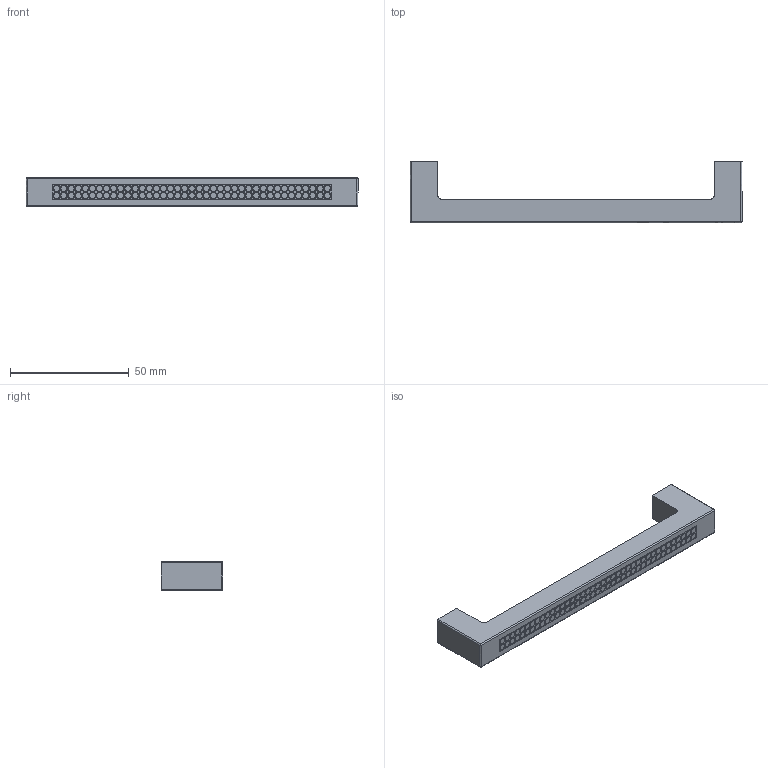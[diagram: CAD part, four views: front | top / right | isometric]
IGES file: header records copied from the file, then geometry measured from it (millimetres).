
Start section: Data from Parasolid IGES Translator 15.0.47, Copyright(c) 2006 Siemens P LM Software. All Rights Reserved.
Global section: file name: 9113711.igs; native system:  By UGS Corp.; preprocessor: XPlus GENERIC/IGES 3.0; author: Noname; organization: Noname; date: 20140122.170206; units: millimetre
Bounding box: 140.01 x 26.01 x 12 mm (x, y, z)
Surface area: 8356.7 mm2 (no closed solid volume)
Topology: 0 solids, 0 shells, 926 faces, 6852 edges, 6616 vertices
Faces by surface type: extrusion 524, revolution 402
